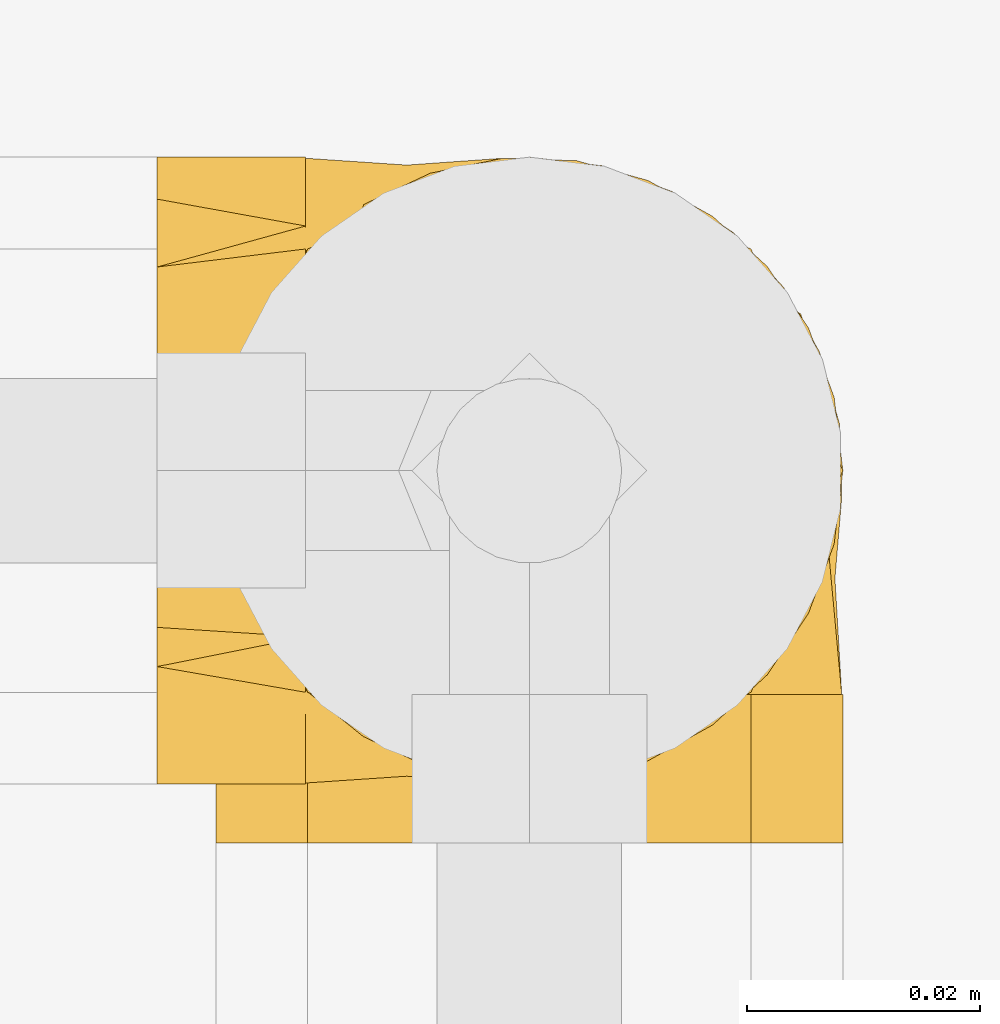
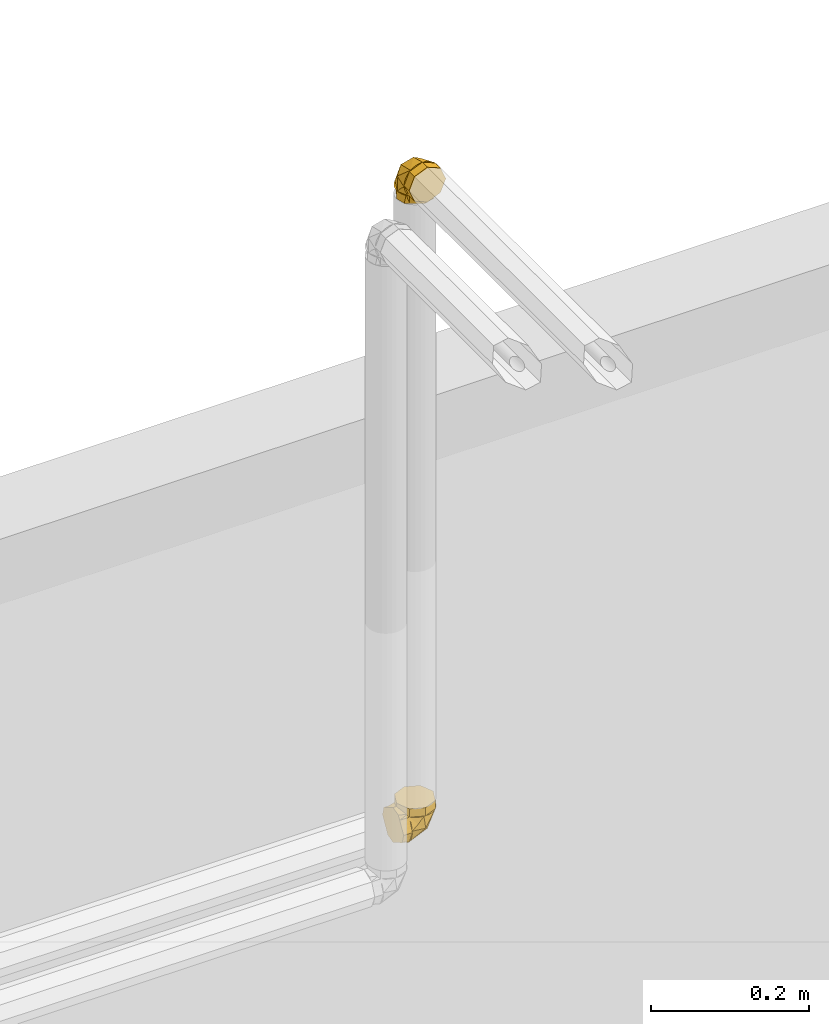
# One storey, part 374 of 652: 2 coverings.
"""IFC2X3 building model written with IfcOpenShell, lengths in millimetres."""

from ifc_helpers import new_model, entity, si_unit, converted_unit, direction, frame, origin, place, context, subcontext, project, spatial, face_set, surface_model, material, type_object, element, save


model = new_model("IFC2X3")

# Units and contexts
model_context = context("Model", 3, precision=0.01, world=frame((0.0, 0.0, 308426.39999999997)), true_north=direction((6.123233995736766e-17, 1.0)))
plan_context = context("Plan", 3, precision=0.01, world=frame((0.0, 0.0, 308426.39999999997)), true_north=direction((6.123233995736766e-17, 1.0)))
body_context = subcontext(model_context, "Body", "Model", "MODEL_VIEW")
ifc_project = project(units=[si_unit("LENGTHUNIT", "METRE", prefix="MILLI"), si_unit("AREAUNIT", "SQUARE_METRE"), si_unit("VOLUMEUNIT", "CUBIC_METRE"), converted_unit("PLANEANGLEUNIT", "DEGREE", entity("IfcPlaneAngleMeasure", 0.017453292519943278), si_unit("PLANEANGLEUNIT", "RADIAN"), dimensions=[0, 0, 0, 0, 0, 0, 0])], contexts=[model_context, plan_context])

# Site, building, storey
site_placement = place(None, origin())
site = spatial("IfcSite", under=ifc_project, at=site_placement, Name="Default", CompositionType="ELEMENT")
building_placement = place(site_placement, origin())
building = spatial("IfcBuilding", under=site, at=building_placement, CompositionType="ELEMENT")
storey_placement = place(building_placement, frame((0.0, 0.0, 1730.6999999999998)))
storey = spatial("IfcBuildingStorey", under=building, at=storey_placement, Name="EG_Produktion_FFB", CompositionType="ELEMENT", Elevation=1730.6999999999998)

# Coverings
ifc_material = material(Name="Dämmung - Armaflex-Schlauch")
covering_type = type_object("IfcCoveringType", Name="Rohrdämmung außen:Armaflex-Schlauch", PredefinedType="INSULATION")
covering_1_placement = place(storey_placement, frame((47271.46722776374, 50390.05280774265, 3728.5327722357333)))
element("IfcCovering", 1, at=covering_1_placement, inside=storey, type_object=covering_type, material=ifc_material, Name="Rohrdämmung außen:Armaflex-Schlauch", ObjectType="Rohrdämmung außen:Armaflex-Schlauch", PredefinedType="INSULATION", context=body_context, shape_type="SurfaceModel", body=[
    surface_model("IfcFaceBasedSurfaceModel", [(47.409122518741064, 12.766250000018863, -47.75027223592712), (51.38658262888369, 12.766250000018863, -42.79223424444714), (54.0915642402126, 12.766250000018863, -37.040242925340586), (55.37345654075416, 12.766250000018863, -30.814563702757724), (55.16088498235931, 12.766250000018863, -24.461836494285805), (53.465685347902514, 12.766250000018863, -18.335775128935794), (50.38224474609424, 12.766250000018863, -12.77747289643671), (46.08224622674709, 12.766250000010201, -8.096410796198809), (40.8051096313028, 12.766250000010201, -4.553225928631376), (34.844660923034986, 12.766250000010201, -2.3451994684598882), (28.532772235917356, 12.766250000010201, -1.595272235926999), (22.220883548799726, 12.766250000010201, -2.3451994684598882), (16.26043484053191, 12.766250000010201, -4.553225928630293), (10.983298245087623, 12.766250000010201, -8.096410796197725), (6.683299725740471, 12.766250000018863, -12.77747289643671), (3.599859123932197, 12.766250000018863, -18.33577512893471), (1.904659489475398, 12.766250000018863, -24.461836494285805), (1.6920879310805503, 12.766250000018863, -30.814563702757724), (2.973980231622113, 12.766250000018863, -37.040242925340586), (5.678961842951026, 12.766250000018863, -42.79223424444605), (9.65642195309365, 12.766250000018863, -47.75027223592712), (5.678961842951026, 17.72428799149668, -47.75027223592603), (2.973980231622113, 23.47627931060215, -47.75027223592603), (1.6920879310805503, 29.70195853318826, -47.75027223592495), (1.904659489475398, 36.05468574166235, -47.75027223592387), (3.599859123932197, 42.18074710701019, -47.75027223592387), (6.683299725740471, 47.73904933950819, -47.750272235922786), (10.983298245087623, 52.42011143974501, -47.750272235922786), (16.26043484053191, 55.96329630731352, -47.750272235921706), (22.220883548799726, 58.17132276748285, -47.750272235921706), (28.532772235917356, 58.921250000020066, -47.750272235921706), (34.844660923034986, 58.17132276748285, -47.750272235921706), (40.8051096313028, 55.96329630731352, -47.750272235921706), (46.08224622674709, 52.42011143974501, -47.750272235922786), (50.38224474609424, 47.73904933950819, -47.750272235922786), (53.465685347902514, 42.18074710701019, -47.75027223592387), (55.16088498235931, 36.05468574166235, -47.75027223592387), (55.37345654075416, 29.70195853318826, -47.75027223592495), (54.0915642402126, 23.47627931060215, -47.75027223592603), (51.38658262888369, 17.72428799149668, -47.75027223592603), (54.78821657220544, 22.707263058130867, -39.069426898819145), (28.534005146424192, 35.84599596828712, -7.778894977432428), (50.727999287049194, 12.768334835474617, -19.455507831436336), (53.46736696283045, 33.56706530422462, -26.95098054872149), (42.77964723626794, 43.18508288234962, -18.674741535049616), (28.534005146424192, 48.375463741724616, -29.48629091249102), (50.727999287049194, 41.05963122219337, -47.75029237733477), (14.283712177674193, 43.18508288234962, -18.674741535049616), (3.6006433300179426, 33.56706530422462, -26.95098054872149), (2.2751428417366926, 22.707263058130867, -39.069426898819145), (6.340011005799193, 41.05963122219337, -47.75029237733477), (6.340011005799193, 12.768334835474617, -19.455507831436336), (28.532772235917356, 0.0, -1.5952722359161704), (23.770850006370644, 0.0, -3.567725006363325), (19.008927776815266, 0.0, -5.540177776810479), (14.247005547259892, 0.0, -7.51263054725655), (9.485083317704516, 0.0, -9.485083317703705), (7.512630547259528, 0.0, -14.247005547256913), (5.54017777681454, 0.0, -19.008927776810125), (3.567725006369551, 0.0, -23.770850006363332), (1.5952722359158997, 0.0, -28.532772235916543), (3.567725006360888, 0.0, -33.29469446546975), (5.54017777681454, 0.0, -38.05661669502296), (7.512630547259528, 0.0, -42.818538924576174), (9.485083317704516, 0.0, -47.58046115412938), (14.247005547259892, 0.0, -49.552913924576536), (19.008927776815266, 0.0, -51.52536669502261), (23.770850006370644, 0.0, -53.49781946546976), (28.532772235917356, 0.0, -55.470272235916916), (33.29469446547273, 0.0, -53.49781946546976), (38.05661669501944, 0.0, -51.52536669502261), (42.81853892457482, 0.0, -49.552913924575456), (47.5804611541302, 0.0, -47.58046115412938), (49.552913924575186, 0.0, -42.818538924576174), (51.525366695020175, 0.0, -38.05661669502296), (53.497819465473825, 0.0, -33.29469446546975), (55.47027223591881, 0.0, -28.532772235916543), (53.497819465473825, 0.0, -23.770850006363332), (51.525366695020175, 0.0, -19.008927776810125), (49.552913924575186, 0.0, -14.247005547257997), (47.5804611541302, 0.0, -9.485083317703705), (42.81853892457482, 0.0, -7.51263054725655), (38.05661669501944, 0.0, -5.540177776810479), (33.29469446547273, 0.0, -3.567725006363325), (28.532772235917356, 12.766250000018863, -1.5952722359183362), (33.29469446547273, 12.766250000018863, -3.567725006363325), (38.05661669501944, 12.766250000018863, -5.540177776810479), (42.81853892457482, 12.766250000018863, -7.512630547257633), (47.5804611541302, 12.766250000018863, -9.48508331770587), (49.96980627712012, 12.766250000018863, -15.25347271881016), (52.35915140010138, 12.766250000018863, -21.021862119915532), (55.47027223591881, 12.766250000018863, -28.53277223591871), (53.497819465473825, 12.766250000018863, -33.29469446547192), (51.525366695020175, 12.766250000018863, -38.05661669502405), (49.552913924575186, 12.766250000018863, -42.818538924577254), (47.5804611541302, 12.766250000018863, -47.58046115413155), (41.81207175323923, 12.766250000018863, -49.96980627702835), (36.04368235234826, 12.766250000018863, -52.35915139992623), (28.532772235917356, 12.766250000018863, -55.47027223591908), (23.77085000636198, 12.766250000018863, -53.49781946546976), (19.008927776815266, 12.766250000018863, -51.52536669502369), (14.247005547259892, 12.766250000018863, -49.552913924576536), (9.485083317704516, 12.766250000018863, -47.58046115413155), (7.095738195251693, 12.766250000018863, -41.81207175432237), (4.706393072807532, 12.766250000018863, -36.04368235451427), (1.5952722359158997, 12.766250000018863, -28.53277223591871), (3.567725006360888, 12.766250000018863, -23.7708500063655), (5.54017777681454, 12.766250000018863, -19.008927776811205), (7.512630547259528, 12.766250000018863, -14.247005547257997), (9.485083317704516, 12.766250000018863, -9.48508331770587), (15.253472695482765, 12.766250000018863, -7.095738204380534), (21.021862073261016, 12.766250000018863, -4.7063930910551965), (28.532772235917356, 58.92125000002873, -60.51652223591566), (34.36491206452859, 55.55406250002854, -60.51652223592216), (40.197051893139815, 52.186875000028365, -60.51652223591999), (46.02919172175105, 48.81968750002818, -60.516522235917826), (51.86133155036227, 45.452500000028, -60.51652223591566), (53.66580189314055, 38.718125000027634, -60.51652223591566), (55.47027223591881, 31.98375000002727, -60.51652223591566), (52.10308473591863, 26.151610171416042, -60.51652223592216), (48.73589723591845, 20.319470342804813, -60.51652223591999), (45.368709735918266, 14.487330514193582, -60.516522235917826), (42.00152223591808, 8.655190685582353, -60.51652223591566), (35.26714723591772, 6.850720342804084, -60.51652223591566), (28.532772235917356, 5.046250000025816, -60.51652223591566), (22.700632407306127, 8.413437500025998, -60.51652223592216), (16.868492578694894, 11.78062500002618, -60.51652223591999), (11.036352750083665, 15.147812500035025, -60.516522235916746), (5.204212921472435, 18.515000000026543, -60.51652223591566), (3.3997425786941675, 25.24937500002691, -60.51652223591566), (1.5952722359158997, 31.98375000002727, -60.51652223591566), (4.962459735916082, 37.815889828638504, -60.51652223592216), (8.329647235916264, 43.64802965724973, -60.51652223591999), (11.696834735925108, 49.48016948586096, -60.516522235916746), (15.064022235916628, 55.312309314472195, -60.51652223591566), (21.79839723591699, 57.11677965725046, -60.51652223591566), (28.532772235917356, 58.92125000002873, -47.75027223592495), (23.770850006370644, 56.94879722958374, -47.75027223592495), (19.008927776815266, 54.97634445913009, -47.75027223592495), (14.247005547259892, 53.0038916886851, -47.75027223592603), (9.485083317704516, 51.03143891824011, -47.75027223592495), (7.512630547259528, 46.26951668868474, -47.75027223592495), (5.54017777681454, 41.50759445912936, -47.75027223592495), (3.567725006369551, 36.745672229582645, -47.75027223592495), (1.5952722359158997, 31.98375000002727, -47.75027223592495), (3.567725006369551, 27.221827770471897, -47.75027223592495), (5.54017777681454, 22.459905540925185, -47.75027223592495), (7.512630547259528, 17.697983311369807, -47.75027223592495), (9.485083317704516, 12.936061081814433, -47.75027223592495), (14.247005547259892, 10.963608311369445, -47.75027223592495), (19.008927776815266, 8.991155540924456, -47.75027223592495), (23.770850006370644, 7.018702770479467, -47.75027223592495), (28.532772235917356, 5.046250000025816, -47.75027223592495), (33.29469446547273, 7.018702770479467, -47.75027223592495), (38.05661669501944, 8.991155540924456, -47.75027223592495), (42.818538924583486, 10.963608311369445, -47.75027223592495), (47.5804611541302, 12.936061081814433, -47.75027223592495), (49.552913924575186, 17.697983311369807, -47.75027223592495), (51.525366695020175, 22.459905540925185, -47.75027223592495), (53.497819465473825, 27.22182777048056, -47.75027223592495), (55.47027223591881, 31.98375000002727, -47.75027223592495), (53.497819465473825, 36.745672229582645, -47.75027223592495), (51.525366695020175, 41.50759445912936, -47.75027223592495), (49.552913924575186, 46.26951668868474, -47.75027223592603), (47.5804611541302, 51.03143891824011, -47.75027223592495), (42.81853892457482, 53.0038916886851, -47.75027223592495), (38.05661669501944, 54.97634445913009, -47.75027223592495), (33.29469446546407, 56.94879722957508, -47.75027223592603)], [face_set([[[0, 1, 2, 3, 4, 5, 6, 7, 8, 9, 10, 11, 12, 13, 14, 15, 16, 17, 18, 19]], [[20, 21, 22, 23, 24, 25, 26, 27, 28, 29, 30, 31, 32, 33, 34, 35, 36, 37, 38, 39]], [[0, 40, 3]], [[10, 7, 41]], [[42, 3, 43, 7]], [[40, 43, 3]], [[37, 40, 0]], [[7, 43, 44]], [[45, 41, 44]], [[7, 44, 41]], [[33, 30, 45]], [[45, 44, 33]], [[43, 33, 44]], [[43, 37, 46]], [[37, 43, 40]], [[46, 33, 43]], [[13, 10, 41]], [[27, 47, 45]], [[45, 30, 27]], [[48, 47, 27]], [[49, 48, 23]], [[48, 50, 23]], [[45, 47, 41]], [[20, 49, 23]], [[47, 48, 13]], [[17, 49, 20]], [[41, 47, 13]], [[48, 17, 51]], [[48, 27, 50]], [[17, 48, 49]], [[51, 13, 48]]]), face_set([[[52, 53, 54, 55, 56, 57, 58, 59, 60, 61, 62, 63, 64, 65, 66, 67, 68, 69, 70, 71, 72, 73, 74, 75, 76, 77, 78, 79, 80, 81, 82, 83]], [[84, 85, 86, 87, 88, 89, 90, 91, 92, 93, 94, 95, 96, 97, 98, 99, 100, 101, 102, 103, 104, 105, 106, 107, 108, 109, 110, 111]], [[111, 110, 109, 56, 55, 54, 53, 52, 84]], [[56, 109, 108, 107, 106, 105, 60, 59, 58, 57]], [[104, 103, 102, 64, 63, 62, 61, 60, 105]], [[64, 102, 101, 100, 99, 98, 68, 67, 66, 65]], [[97, 96, 95, 72, 71, 70, 69, 68, 98]], [[72, 95, 94, 93, 92, 91, 76, 75, 74, 73]], [[90, 89, 88, 80, 79, 78, 77, 76, 91]], [[80, 88, 87, 86, 85, 84, 52, 83, 82, 81]]]), face_set([[[112, 113, 114, 115, 116, 117, 118, 119, 120, 121, 122, 123, 124, 125, 126, 127, 128, 129, 130, 131, 132, 133, 134, 135]], [[136, 137, 138, 139, 140, 141, 142, 143, 144, 145, 146, 147, 148, 149, 150, 151, 152, 153, 154, 155, 156, 157, 158, 159, 160, 161, 162, 163, 164, 165, 166, 167]], [[155, 121, 156]], [[118, 159, 119]], [[159, 158, 119]], [[123, 154, 153]], [[153, 152, 124]], [[121, 155, 122]], [[120, 158, 157]], [[118, 160, 159]], [[158, 120, 119]], [[124, 123, 153]], [[157, 156, 121]], [[155, 154, 122]], [[123, 122, 154]], [[120, 157, 121]], [[163, 115, 164]], [[112, 167, 113]], [[167, 166, 113]], [[117, 162, 161]], [[161, 160, 118]], [[115, 163, 116]], [[114, 166, 165]], [[112, 136, 167]], [[166, 114, 113]], [[118, 117, 161]], [[165, 164, 115]], [[163, 162, 116]], [[117, 116, 162]], [[114, 165, 115]], [[139, 133, 140]], [[130, 143, 131]], [[143, 142, 131]], [[135, 138, 137]], [[137, 136, 112]], [[133, 139, 134]], [[132, 142, 141]], [[130, 144, 143]], [[142, 132, 131]], [[112, 135, 137]], [[141, 140, 133]], [[139, 138, 134]], [[135, 134, 138]], [[132, 141, 133]], [[147, 127, 148]], [[124, 151, 125]], [[151, 150, 125]], [[129, 146, 145]], [[145, 144, 130]], [[127, 147, 128]], [[126, 150, 149]], [[124, 152, 151]], [[150, 126, 125]], [[130, 129, 145]], [[149, 148, 127]], [[147, 146, 128]], [[129, 128, 146]], [[126, 149, 127]]])]),
])
covering_2_placement = place(storey_placement, frame((47268.016249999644, 50393.503785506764, 2671.4672277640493)))
element("IfcCovering", 2, at=covering_2_placement, inside=storey, type_object=covering_type, material=ifc_material, Name="Rohrdämmung außen:Armaflex-Schlauch", ObjectType="Rohrdämmung außen:Armaflex-Schlauch", PredefinedType="INSULATION", context=body_context, shape_type="SurfaceModel", body=[
    surface_model("IfcFaceBasedSurfaceModel", [(12.766249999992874, 9.65642195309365, 47.750272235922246), (17.724287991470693, 5.678961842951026, 47.750272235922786), (23.47627931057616, 2.973980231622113, 47.750272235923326), (29.70195853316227, 1.6920879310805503, 47.75027223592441), (36.054685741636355, 1.904659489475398, 47.75027223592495), (42.1807471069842, 3.599859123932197, 47.75027223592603), (47.7390493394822, 6.683299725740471, 47.75027223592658), (52.420111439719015, 10.983298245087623, 47.75027223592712), (55.963296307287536, 16.26043484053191, 47.75027223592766), (58.17132276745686, 22.220883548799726, 47.75027223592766), (58.921249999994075, 28.532772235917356, 47.75027223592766), (58.17132276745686, 34.844660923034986, 47.75027223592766), (55.963296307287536, 40.8051096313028, 47.75027223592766), (52.420111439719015, 46.08224622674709, 47.75027223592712), (47.7390493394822, 50.38224474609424, 47.75027223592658), (42.1807471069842, 53.465685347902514, 47.75027223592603), (36.054685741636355, 55.16088498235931, 47.75027223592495), (29.70195853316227, 55.37345654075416, 47.75027223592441), (23.47627931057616, 54.0915642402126, 47.750272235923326), (17.724287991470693, 51.38658262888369, 47.750272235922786), (12.766249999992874, 47.409122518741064, 47.750272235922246), (12.766249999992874, 51.38658262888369, 42.79223424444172), (12.766249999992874, 54.0915642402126, 37.04024292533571), (12.766249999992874, 55.37345654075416, 30.81456370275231), (12.766249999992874, 55.16088498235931, 24.46183649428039), (12.766249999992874, 53.465685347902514, 18.33577512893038), (12.766249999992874, 50.38224474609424, 12.777472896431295), (12.766250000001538, 46.08224622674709, 8.096410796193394), (12.766250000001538, 40.8051096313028, 4.553225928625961), (12.766250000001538, 34.844660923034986, 2.3451994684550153), (12.766250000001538, 28.532772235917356, 1.5952722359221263), (12.766250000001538, 22.220883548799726, 2.3451994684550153), (12.766250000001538, 16.26043484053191, 4.553225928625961), (12.766250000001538, 10.983298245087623, 8.096410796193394), (12.766249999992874, 6.683299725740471, 12.777472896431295), (12.766249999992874, 3.599859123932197, 18.33577512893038), (12.766249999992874, 1.904659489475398, 24.46183649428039), (12.766249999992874, 1.6920879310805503, 30.81456370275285), (12.766249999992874, 2.973980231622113, 37.04024292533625), (12.766249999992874, 5.678961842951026, 42.79223424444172), (21.446091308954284, 2.2759264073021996, 37.80740068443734), (52.737204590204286, 28.5347887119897, 24.672737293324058), (33.566281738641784, 3.6014268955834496, 26.95108659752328), (41.05884765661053, 6.3361436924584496, 47.75039842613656), (31.031552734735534, 28.5347887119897, 12.139781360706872), (41.84019531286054, 14.2844957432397, 17.332487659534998), (12.767551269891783, 6.3361436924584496, 19.455613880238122), (41.84019531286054, 42.780430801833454, 17.332487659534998), (33.566281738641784, 53.4634996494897, 26.95108659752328), (21.446091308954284, 54.78900013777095, 37.80740068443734), (12.767551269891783, 50.7287828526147, 19.455613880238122), (41.05884765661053, 50.7287828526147, 47.75039842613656), (53.00389168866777, 14.247005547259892, 60.51652223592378), (54.97634445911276, 19.008927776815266, 60.51652223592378), (56.948797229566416, 23.770850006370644, 60.51652223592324), (58.921250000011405, 28.532772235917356, 60.5165222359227), (56.948797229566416, 33.29469446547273, 60.5165222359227), (54.97634445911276, 38.05661669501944, 60.51652223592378), (53.00389168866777, 42.81853892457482, 60.51652223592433), (51.03143891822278, 47.5804611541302, 60.51652223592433), (46.26951668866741, 49.552913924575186, 60.51652223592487), (41.507594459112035, 51.525366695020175, 60.51652223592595), (36.74567222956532, 53.497819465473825, 60.51652223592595), (31.983750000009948, 55.47027223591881, 60.516522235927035), (27.22182777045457, 53.497819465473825, 60.516522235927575), (22.459905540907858, 51.525366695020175, 60.516522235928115), (17.697983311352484, 49.552913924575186, 60.516522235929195), (12.936061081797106, 47.5804611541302, 60.51652223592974), (10.963608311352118, 42.81853892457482, 60.51652223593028), (8.99115554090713, 38.05661669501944, 60.51652223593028), (7.018702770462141, 33.29469446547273, 60.51652223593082), (5.046250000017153, 28.532772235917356, 60.51652223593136), (7.018702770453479, 23.77085000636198, 60.51652223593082), (8.99115554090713, 19.008927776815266, 60.51652223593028), (10.963608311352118, 14.247005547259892, 60.51652223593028), (12.936061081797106, 9.485083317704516, 60.51652223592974), (17.697983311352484, 7.512630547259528, 60.516522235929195), (22.459905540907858, 5.54017777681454, 60.516522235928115), (27.221827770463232, 3.567725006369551, 60.516522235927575), (31.983750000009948, 1.5952722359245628, 60.516522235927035), (36.74567222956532, 3.567725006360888, 60.51652223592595), (41.507594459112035, 5.54017777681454, 60.51652223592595), (46.26951668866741, 7.512630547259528, 60.51652223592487), (51.03143891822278, 9.485083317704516, 60.51652223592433), (58.92125000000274, 28.532772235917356, 47.75027223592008), (56.948797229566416, 23.77085000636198, 47.75027223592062), (54.97634445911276, 19.008927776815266, 47.750272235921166), (53.00389168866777, 14.247005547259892, 47.750272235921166), (51.03143891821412, 9.485083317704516, 47.750272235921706), (45.26304951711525, 7.095738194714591, 47.750272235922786), (39.49466011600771, 4.706393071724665, 47.750272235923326), (31.983750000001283, 1.5952722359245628, 47.75027223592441), (27.22182777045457, 3.567725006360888, 47.75027223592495), (22.459905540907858, 5.54017777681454, 47.75027223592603), (17.697983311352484, 7.512630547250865, 47.75027223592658), (12.936061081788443, 9.485083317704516, 47.75027223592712), (10.546715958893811, 15.253472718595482, 47.75027223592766), (8.157370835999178, 21.021862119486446, 47.7502722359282), (5.046250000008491, 28.532772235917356, 47.75027223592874), (7.018702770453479, 33.29469446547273, 47.7502722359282), (8.99115554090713, 38.05661669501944, 47.7502722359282), (10.963608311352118, 42.81853892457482, 47.7502722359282), (12.936061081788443, 47.5804611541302, 47.75027223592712), (18.704450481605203, 49.96980627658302, 47.75027223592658), (24.472839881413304, 52.359151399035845, 47.75027223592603), (31.983750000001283, 55.47027223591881, 47.75027223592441), (36.74567222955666, 53.497819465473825, 47.75027223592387), (41.507594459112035, 51.525366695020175, 47.750272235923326), (46.26951668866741, 49.552913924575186, 47.750272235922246), (51.03143891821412, 47.5804611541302, 47.750272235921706), (53.420784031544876, 41.81207177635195, 47.750272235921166), (55.810129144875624, 36.0436823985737, 47.750272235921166), (0.0, 28.532772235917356, 1.5952722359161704), (0.0, 22.700632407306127, 4.962459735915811), (0.0, 16.868492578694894, 8.329647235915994), (0.0, 11.036352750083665, 11.696834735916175), (0.0, 5.204212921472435, 15.064022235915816), (0.0, 3.3997425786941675, 21.798397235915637), (0.0, 1.5952722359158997, 28.532772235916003), (0.0, 4.962459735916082, 34.36491206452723), (0.0, 8.329647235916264, 40.19705189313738), (0.0, 11.696834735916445, 46.02919172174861), (0.0, 15.064022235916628, 51.861331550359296), (0.0, 21.79839723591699, 53.66580189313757), (0.0, 28.532772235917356, 55.470272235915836), (0.0, 34.36491206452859, 52.10308473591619), (0.0, 40.197051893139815, 48.73589723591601), (0.0, 46.02919172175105, 45.36870973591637), (0.0, 51.86133155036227, 42.00152223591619), (0.0, 53.66580189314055, 35.26714723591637), (0.0, 55.47027223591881, 28.532772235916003), (0.0, 52.10308473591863, 22.700632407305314), (0.0, 48.73589723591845, 16.868492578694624), (0.0, 45.36870973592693, 11.036352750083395), (0.0, 42.00152223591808, 5.204212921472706), (0.0, 35.26714723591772, 3.3997425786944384), (12.766250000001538, 28.532772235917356, 1.5952722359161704), (12.766250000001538, 33.29469446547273, 3.567725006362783), (12.766250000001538, 38.05661669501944, 5.540177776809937), (12.766250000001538, 42.81853892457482, 7.512630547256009), (12.766250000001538, 47.5804611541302, 9.485083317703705), (12.766250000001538, 49.552913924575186, 14.247005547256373), (12.766250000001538, 51.525366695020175, 19.008927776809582), (12.766250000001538, 53.497819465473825, 23.770850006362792), (12.766250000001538, 55.47027223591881, 28.532772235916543), (12.766250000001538, 53.497819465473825, 33.29469446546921), (12.766250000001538, 51.525366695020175, 38.05661669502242), (12.766250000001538, 49.552913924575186, 42.818538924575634), (12.766250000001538, 47.5804611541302, 47.58046115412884), (12.766250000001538, 42.81853892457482, 49.552913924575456), (12.766250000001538, 38.05661669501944, 51.525366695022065), (12.766250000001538, 33.29469446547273, 53.49781946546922), (12.766250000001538, 28.532772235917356, 55.470272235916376), (12.766250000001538, 23.770850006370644, 53.49781946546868), (12.766250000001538, 19.008927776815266, 51.525366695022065), (12.766250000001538, 14.247005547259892, 49.552913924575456), (12.766250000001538, 9.485083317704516, 47.58046115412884), (12.766250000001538, 7.512630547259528, 42.818538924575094), (12.766250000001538, 5.54017777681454, 38.05661669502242), (12.766250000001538, 3.567725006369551, 33.29469446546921), (12.766250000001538, 1.5952722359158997, 28.532772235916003), (12.766250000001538, 3.567725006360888, 23.770850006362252), (12.766250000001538, 5.54017777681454, 19.008927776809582), (12.766250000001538, 7.512630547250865, 14.247005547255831), (12.766250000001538, 9.485083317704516, 9.485083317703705), (12.766250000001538, 14.247005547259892, 7.512630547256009), (12.766250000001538, 19.008927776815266, 5.540177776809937), (12.766250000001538, 23.77085000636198, 3.5677250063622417)], [face_set([[[0, 1, 2, 3, 4, 5, 6, 7, 8, 9, 10, 11, 12, 13, 14, 15, 16, 17, 18, 19]], [[20, 21, 22, 23, 24, 25, 26, 27, 28, 29, 30, 31, 32, 33, 34, 35, 36, 37, 38, 39]], [[0, 40, 3]], [[10, 7, 41]], [[37, 42, 40]], [[42, 7, 43]], [[37, 40, 0]], [[3, 40, 42]], [[44, 41, 45]], [[7, 45, 41]], [[33, 30, 44]], [[44, 45, 33]], [[42, 33, 45]], [[42, 37, 46]], [[7, 42, 45]], [[43, 3, 42]], [[46, 33, 42]], [[13, 10, 41]], [[27, 47, 44]], [[44, 30, 27]], [[48, 47, 27]], [[49, 48, 23]], [[48, 50, 23]], [[44, 47, 41]], [[20, 49, 23]], [[47, 48, 13]], [[17, 49, 20]], [[41, 47, 13]], [[48, 17, 51]], [[48, 27, 50]], [[17, 48, 49]], [[51, 13, 48]]]), face_set([[[52, 53, 54, 55, 56, 57, 58, 59, 60, 61, 62, 63, 64, 65, 66, 67, 68, 69, 70, 71, 72, 73, 74, 75, 76, 77, 78, 79, 80, 81, 82, 83]], [[84, 85, 86, 87, 88, 89, 90, 91, 92, 93, 94, 95, 96, 97, 98, 99, 100, 101, 102, 103, 104, 105, 106, 107, 108, 109, 110, 111]], [[111, 110, 109, 59, 58, 57, 56, 55, 84]], [[59, 109, 108, 107, 106, 105, 63, 62, 61, 60]], [[104, 103, 102, 67, 66, 65, 64, 63, 105]], [[67, 102, 101, 100, 99, 98, 71, 70, 69, 68]], [[97, 96, 95, 75, 74, 73, 72, 71, 98]], [[75, 95, 94, 93, 92, 91, 79, 78, 77, 76]], [[90, 89, 88, 83, 82, 81, 80, 79, 91]], [[83, 88, 87, 86, 85, 84, 55, 54, 53, 52]]]), face_set([[[112, 113, 114, 115, 116, 117, 118, 119, 120, 121, 122, 123, 124, 125, 126, 127, 128, 129, 130, 131, 132, 133, 134, 135]], [[136, 137, 138, 139, 140, 141, 142, 143, 144, 145, 146, 147, 148, 149, 150, 151, 152, 153, 154, 155, 156, 157, 158, 159, 160, 161, 162, 163, 164, 165, 166, 167]], [[155, 121, 156]], [[118, 159, 119]], [[159, 158, 119]], [[123, 154, 153]], [[153, 152, 124]], [[121, 155, 122]], [[120, 158, 157]], [[118, 160, 159]], [[158, 120, 119]], [[124, 123, 153]], [[157, 156, 121]], [[155, 154, 122]], [[123, 122, 154]], [[120, 157, 121]], [[163, 115, 164]], [[112, 167, 113]], [[167, 166, 113]], [[117, 162, 161]], [[161, 160, 118]], [[115, 163, 116]], [[114, 166, 165]], [[112, 136, 167]], [[166, 114, 113]], [[118, 117, 161]], [[165, 164, 115]], [[163, 162, 116]], [[117, 116, 162]], [[114, 165, 115]], [[139, 133, 140]], [[130, 143, 131]], [[143, 142, 131]], [[135, 138, 137]], [[137, 136, 112]], [[133, 139, 134]], [[132, 142, 141]], [[130, 144, 143]], [[142, 132, 131]], [[112, 135, 137]], [[141, 140, 133]], [[139, 138, 134]], [[135, 134, 138]], [[132, 141, 133]], [[147, 127, 148]], [[124, 151, 125]], [[151, 150, 125]], [[129, 146, 145]], [[145, 144, 130]], [[127, 147, 128]], [[126, 150, 149]], [[124, 152, 151]], [[150, 126, 125]], [[130, 129, 145]], [[149, 148, 127]], [[147, 146, 128]], [[129, 128, 146]], [[126, 149, 127]]])]),
])

save(model, "model.ifc")
